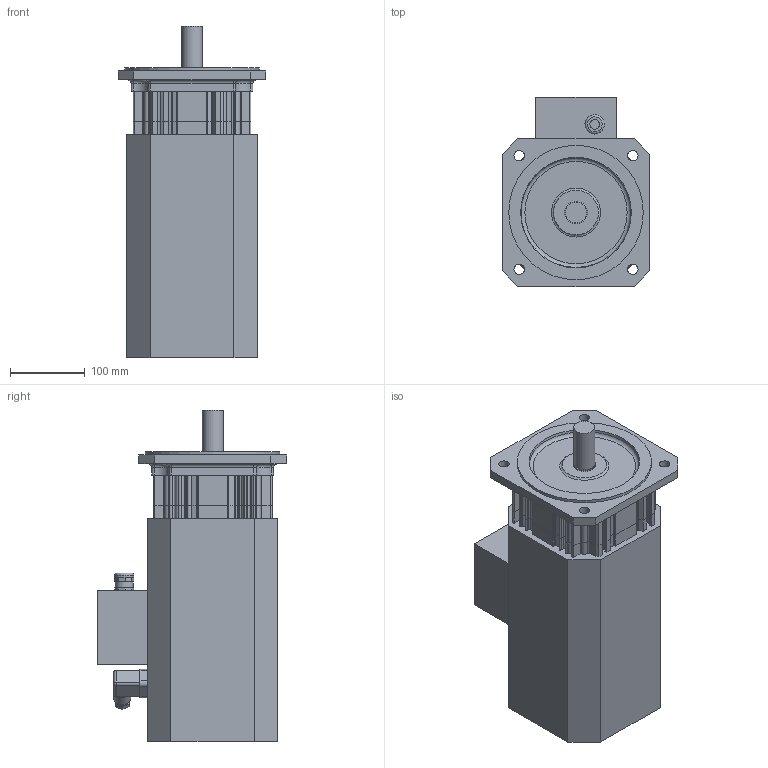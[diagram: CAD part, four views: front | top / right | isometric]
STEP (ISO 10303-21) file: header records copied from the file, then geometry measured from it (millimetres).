
FILE_DESCRIPTION(/* description */ (''),/* implementation_level */ '2;1');
FILE_NAME(/* name */ 'KSA8412_FS',/* time_stamp */ '2009-03-02T09:53:16+01:00',/* author */ (''),/* organization */ (''),/* preprocessor_version */ 'ST-DEVELOPER v8',/* originating_system */ 'UNIGRAPHICS SOLUTIONS - UNIGRAPHICS 18.0',/* authorisation */ '');
FILE_SCHEMA (('AUTOMOTIVE_DESIGN { 1 2 10303 214 0 1 1 1 }'));
Length unit declared in the file: millimetre
Products named in the file (7): 0280391600_0; 014146_0; 014145_0; Lagersch_8AS_0; 089107X_0; SK3958_0; KSA8412_FS_0
Assembly tree (6 placements, depth 3):
  KSA8412_FS_0
    089107X_0
    Lagersch_8AS_0
    SK3958_0
      0280391600_0
    014145_0
    014146_0
Bounding box: 198 x 253.35 x 444 mm (x, y, z)
Volume: 10634545 mm3; surface area: 569188.1 mm2
Topology: 7 solids, 7 shells, 626 faces, 1728 edges, 1132 vertices
Faces by surface type: cylinder 313, plane 281, torus 16, cone 8, bspline 4, sphere 4
Full cylindrical faces by diameter (mm): 3.2 x1, 3.5 x4, 4.5 x1, 5 x1, 6.5 x4, 10 x1, 13 x2, 14 x4, 17 x1, 20 x2, 22.5 x1, 24 x1, 26 x1, 28 x1, 30 x1, 149.6 x2, 151 x1, 180 x1
Entity records: 20149 total; most frequent: DIRECTION 3598, CARTESIAN_POINT 3560, ORIENTED_EDGE 3352, EDGE_CURVE 1676, AXIS2_PLACEMENT_3D 1309, VERTEX_POINT 1122, LINE 980, VECTOR 980
